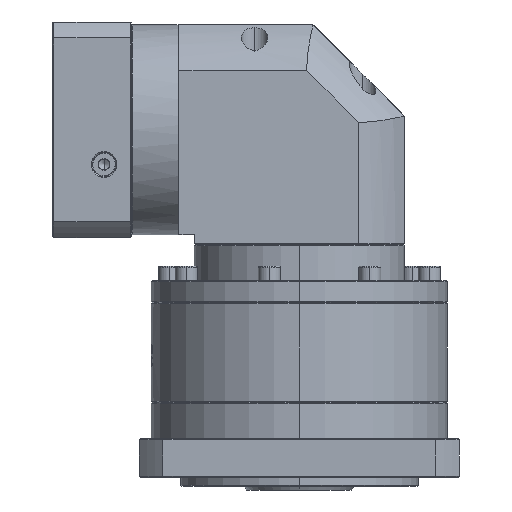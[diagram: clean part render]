
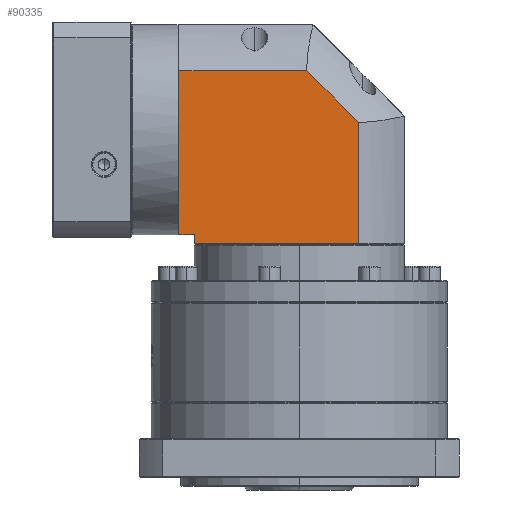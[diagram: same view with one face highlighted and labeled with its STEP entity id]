
A CAD part, left-side view. The second image highlights one B-rep face of the part: STEP entity #90335.
In plain terms, the highlighted planar face has unit normal (-1, 0, 0).
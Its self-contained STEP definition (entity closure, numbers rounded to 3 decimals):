
#2806 = LINE ( 'NONE', #35967, #82167 ) ;
#4116 = DIRECTION ( 'NONE',  ( 0., 0., -1. ) ) ;
#4382 = ORIENTED_EDGE ( 'NONE', *, *, #29322, .F. ) ;
#5966 = VERTEX_POINT ( 'NONE', #85668 ) ;
#6975 = EDGE_LOOP ( 'NONE', ( #114790, #4382, #127338, #119665, #84325, #23900, #72454 ) ) ;
#8898 = VECTOR ( 'NONE', #130993, 1000. ) ;
#11914 = PLANE ( 'NONE',  #57159 ) ;
#15469 = LINE ( 'NONE', #88778, #104814 ) ;
#15761 = LINE ( 'NONE', #37951, #124881 ) ;
#16199 = VERTEX_POINT ( 'NONE', #111297 ) ;
#23086 = EDGE_CURVE ( 'NONE', #5966, #116186, #87068, .T. ) ;
#23900 = ORIENTED_EDGE ( 'NONE', *, *, #62357, .T. ) ;
#29322 = EDGE_CURVE ( 'NONE', #88143, #5966, #15761, .T. ) ;
#33054 = CARTESIAN_POINT ( 'NONE',  ( -188.504, 40.619, 25.828 ) ) ;
#34318 = DIRECTION ( 'NONE',  ( 0., 0., -1. ) ) ;
#35967 = CARTESIAN_POINT ( 'NONE',  ( -188.504, 155.619, 50.928 ) ) ;
#37951 = CARTESIAN_POINT ( 'NONE',  ( -188.504, 94.057, 25.828 ) ) ;
#40276 = CARTESIAN_POINT ( 'NONE',  ( -188.504, 155.619, -64.072 ) ) ;
#47420 = CARTESIAN_POINT ( 'NONE',  ( -188.504, 40.619, -69.072 ) ) ;
#48386 = CARTESIAN_POINT ( 'NONE',  ( -188.504, 164.019, -75.572 ) ) ;
#52175 = LINE ( 'NONE', #48386, #136486 ) ;
#54791 = CARTESIAN_POINT ( 'NONE',  ( -188.504, 94.057, 25.828 ) ) ;
#57159 = AXIS2_PLACEMENT_3D ( 'NONE', #119540, #108870, #66863 ) ;
#58797 = LINE ( 'NONE', #33054, #111693 ) ;
#59675 = DIRECTION ( 'NONE',  ( 0., -0.707, -0.707 ) ) ;
#62357 = EDGE_CURVE ( 'NONE', #84762, #99819, #2806, .T. ) ;
#66863 = DIRECTION ( 'NONE',  ( 0., -1., 0. ) ) ;
#72454 = ORIENTED_EDGE ( 'NONE', *, *, #85684, .F. ) ;
#74504 = CARTESIAN_POINT ( 'NONE',  ( -188.504, 164.019, -64.072 ) ) ;
#76374 = CARTESIAN_POINT ( 'NONE',  ( -188.504, 65.719, -75.572 ) ) ;
#76484 = DIRECTION ( 'NONE',  ( 0., -1., 0. ) ) ;
#80150 = EDGE_CURVE ( 'NONE', #116511, #16199, #52175, .T. ) ;
#82167 = VECTOR ( 'NONE', #4116, 1000. ) ;
#84325 = ORIENTED_EDGE ( 'NONE', *, *, #128297, .T. ) ;
#84762 = VERTEX_POINT ( 'NONE', #40276 ) ;
#85668 = CARTESIAN_POINT ( 'NONE',  ( -188.504, 65.719, -2.51 ) ) ;
#85684 = EDGE_CURVE ( 'NONE', #116186, #99819, #108001, .T. ) ;
#87068 = LINE ( 'NONE', #76374, #116923 ) ;
#88143 = VERTEX_POINT ( 'NONE', #54791 ) ;
#88778 = CARTESIAN_POINT ( 'NONE',  ( -188.504, 155.619, -64.072 ) ) ;
#90335 = ADVANCED_FACE ( 'NONE', ( #129061 ), #11914, .F. ) ;
#91415 = CARTESIAN_POINT ( 'NONE',  ( -188.504, 155.619, -69.072 ) ) ;
#92086 = EDGE_CURVE ( 'NONE', #16199, #88143, #58797, .T. ) ;
#99384 = DIRECTION ( 'NONE',  ( 0., -1., 0. ) ) ;
#99819 = VERTEX_POINT ( 'NONE', #91415 ) ;
#104814 = VECTOR ( 'NONE', #99384, 1000. ) ;
#108001 = LINE ( 'NONE', #47420, #8898 ) ;
#108870 = DIRECTION ( 'NONE',  ( 1., 0., 0. ) ) ;
#109649 = CARTESIAN_POINT ( 'NONE',  ( -188.504, 65.719, -69.072 ) ) ;
#111297 = CARTESIAN_POINT ( 'NONE',  ( -188.504, 164.019, 25.828 ) ) ;
#111693 = VECTOR ( 'NONE', #76484, 1000. ) ;
#114790 = ORIENTED_EDGE ( 'NONE', *, *, #23086, .F. ) ;
#116186 = VERTEX_POINT ( 'NONE', #109649 ) ;
#116511 = VERTEX_POINT ( 'NONE', #74504 ) ;
#116923 = VECTOR ( 'NONE', #34318, 1000. ) ;
#119540 = CARTESIAN_POINT ( 'NONE',  ( -188.504, 40.619, -75.572 ) ) ;
#119665 = ORIENTED_EDGE ( 'NONE', *, *, #80150, .F. ) ;
#124881 = VECTOR ( 'NONE', #59675, 1000. ) ;
#127338 = ORIENTED_EDGE ( 'NONE', *, *, #92086, .F. ) ;
#128297 = EDGE_CURVE ( 'NONE', #116511, #84762, #15469, .T. ) ;
#129061 = FACE_OUTER_BOUND ( 'NONE', #6975, .T. ) ;
#130993 = DIRECTION ( 'NONE',  ( 0., 1., 0. ) ) ;
#134262 = DIRECTION ( 'NONE',  ( 0., 0., 1. ) ) ;
#136486 = VECTOR ( 'NONE', #134262, 1000. ) ;
